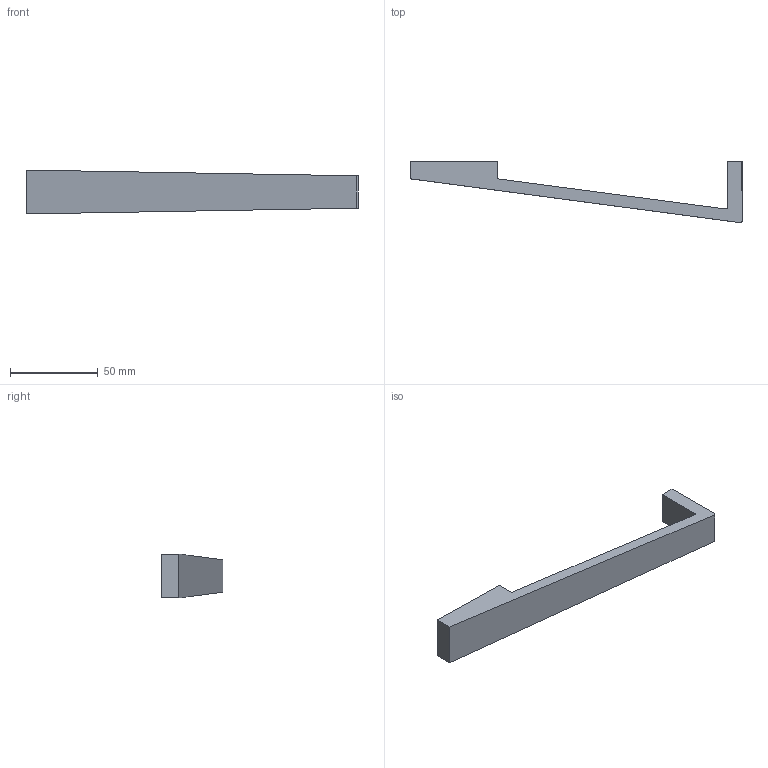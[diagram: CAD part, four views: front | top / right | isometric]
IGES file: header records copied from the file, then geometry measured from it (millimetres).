
Start section: Data from Parasolid IGES Translator 20.0.26, Copyright(c) 2006 Siemens P LM Software. All Rights Reserved.
Global section: file name: 9097953.igs; native system: By Siemens PLM Incorporated; preprocessor: XPlus GENERIC/IGES 20.0.26; author: Noname; organization: Noname; date: 20211115.180637; units: millimetre
Bounding box: 189 x 35 x 25 mm (x, y, z)
Surface area: 13724.7 mm2 (no closed solid volume)
Topology: 0 solids, 0 shells, 16 faces, 72 edges, 68 vertices
Faces by surface type: extrusion 12, revolution 4
